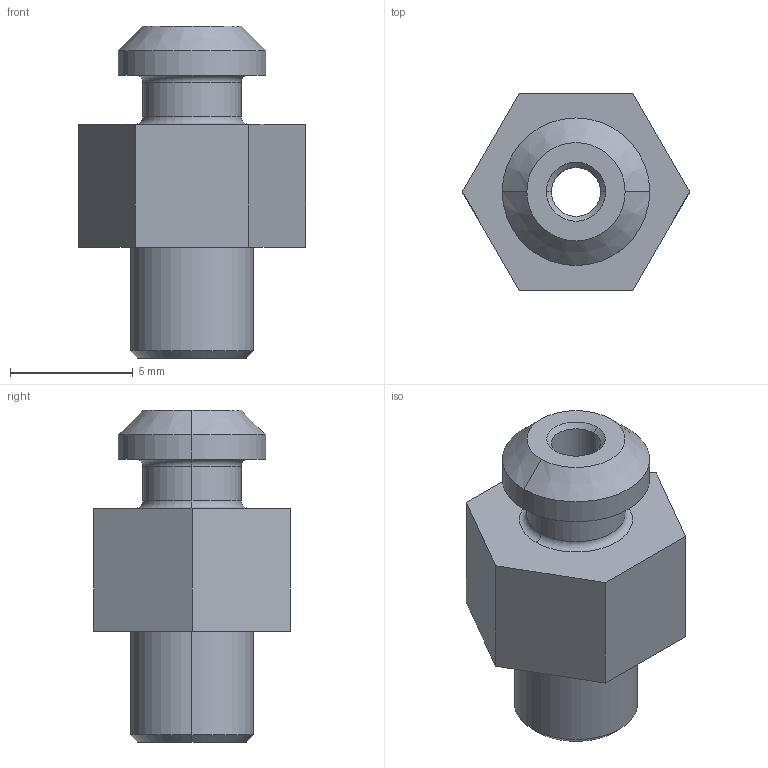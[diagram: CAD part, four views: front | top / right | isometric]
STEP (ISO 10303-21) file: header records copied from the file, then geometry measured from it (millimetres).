
FILE_DESCRIPTION (( 'STEP AP214' ), '1' );
FILE_NAME ('VM29-M5.STEP', '2023-03-07T08:03:29', ( 'Windows User' ), ( 'P R C' ), 'SwSTEP 2.0', 'SolidWorks 2019', '' );
FILE_SCHEMA (( 'AUTOMOTIVE_DESIGN' ));
Length unit declared in the file: millimetre
Products named in the file (1): VM29-M5
Bounding box: 9.24 x 8 x 13.5 mm (x, y, z)
Volume: 396.1 mm3; surface area: 473.8 mm2
Topology: 1 solids, 1 shells, 29 faces, 62 edges, 38 vertices
Faces by surface type: plane 11, cylinder 8, cone 6, torus 4
Entity records: 824 total; most frequent: DIRECTION 152, CARTESIAN_POINT 130, ORIENTED_EDGE 124, EDGE_CURVE 62, AXIS2_PLACEMENT_3D 60, VERTEX_POINT 38, EDGE_LOOP 34, VECTOR 32
